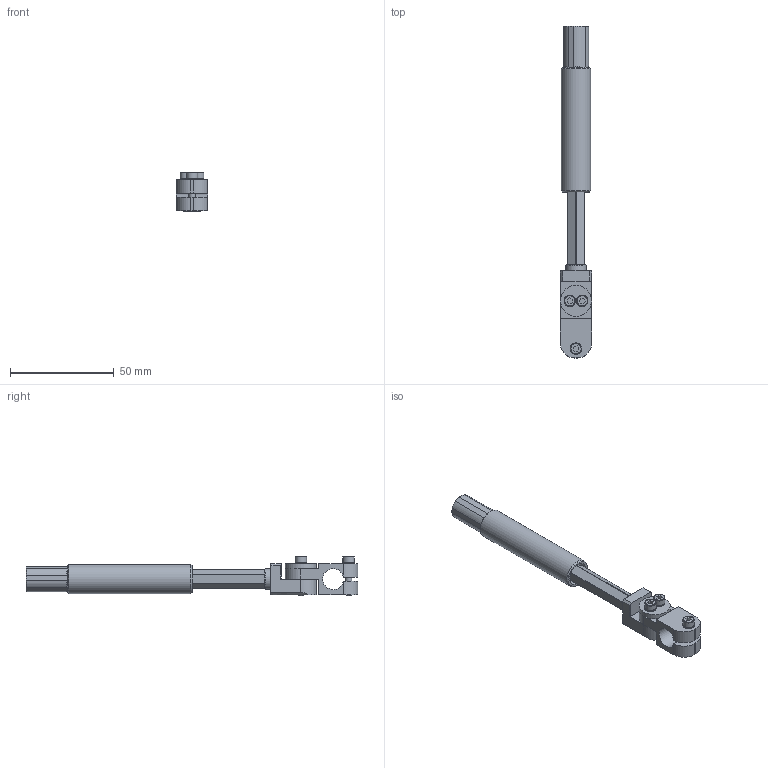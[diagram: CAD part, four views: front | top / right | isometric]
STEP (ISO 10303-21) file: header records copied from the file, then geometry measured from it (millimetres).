
FILE_DESCRIPTION(('STEP AP214'),'1');
FILE_NAME('CA.SMN.143510.stp','2019-02-22T07:27:54',(' '),(' '),'Spatial InterOp 3D',' ',' ');
FILE_SCHEMA(('AUTOMOTIVE_DESIGN { 1 0 10303 214 1 1 1 1 }'));
Length unit declared in the file: millimetre
Products named in the file (11): CA.SMN.143510; V.TCE3x16; VSN.1420.3; VSN.1435.2.1; VSN.1435.4; VSN.14.1; M.8.5X48.50.1; GRZ.142010.1; GVR.10.2; GVR.10.3; R.3.SCH
Assembly tree (14 placements, depth 2):
  CA.SMN.143510
    V.TCE3x16  x3
    VSN.1420.3
    VSN.1435.2.1
    VSN.1435.4
    VSN.14.1
    M.8.5X48.50.1
    GRZ.142010.1
    GVR.10.2
    GVR.10.3
    R.3.SCH  x3
Bounding box: 15 x 160 x 19 mm (x, y, z)
Volume: 17420.6 mm3; surface area: 17107.3 mm2
Topology: 14 solids, 14 shells, 761 faces, 2262 edges, 1536 vertices
Faces by surface type: plane 668, cylinder 65, cone 21, torus 6, bspline 1
Full cylindrical faces by diameter (mm): 2.5 x2, 2.7 x1, 3 x3, 3.2 x3, 3.5 x3, 4 x2, 5 x2, 5.5 x6, 6 x2, 6.9 x2, 7.2 x1, 8.566 x1, 9.5 x1, 9.9 x1, 10 x1, 10.1 x1, 11 x2, 14 x1, 15 x1
Entity records: 18483 total; most frequent: CARTESIAN_POINT 6541, DIRECTION 1915, ORIENTED_EDGE 1814, EDGE_CURVE 907, AXIS2_PLACEMENT_3D 677, VERTEX_POINT 640, LINE 561, VECTOR 561
